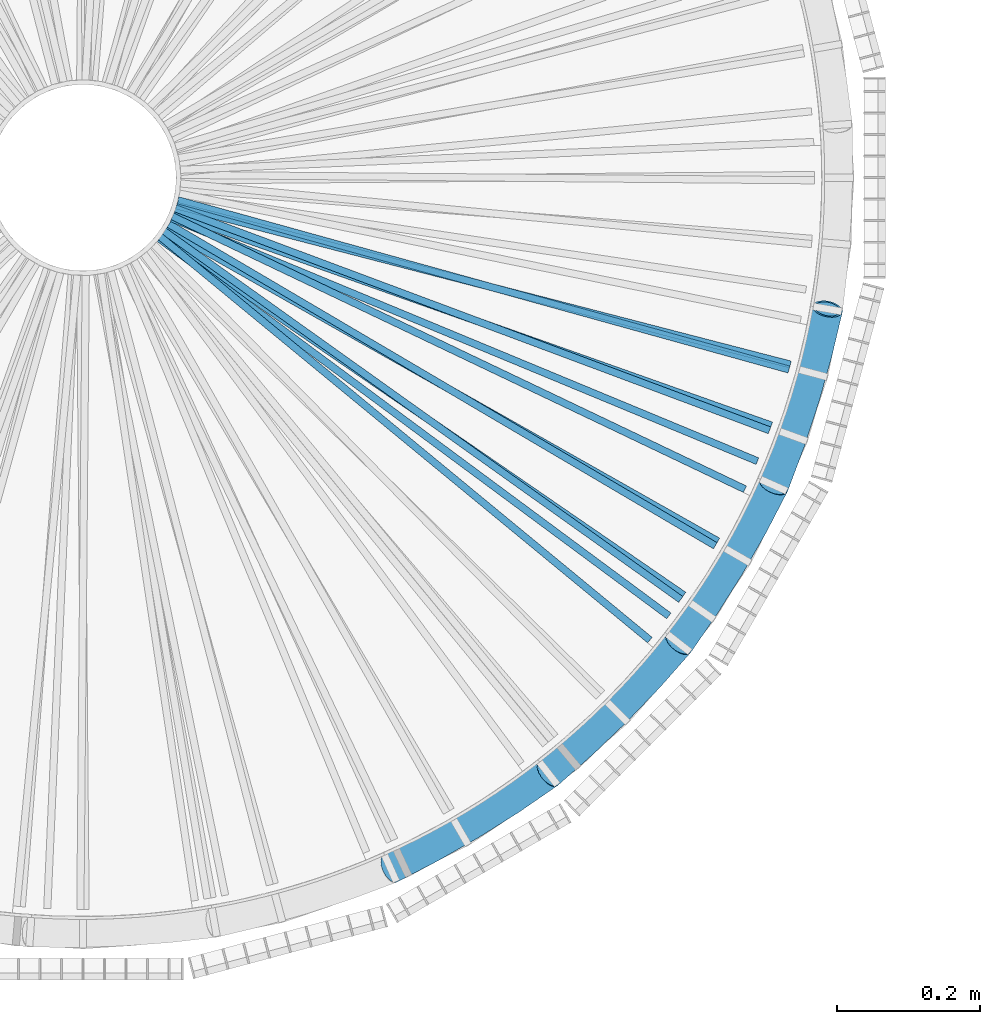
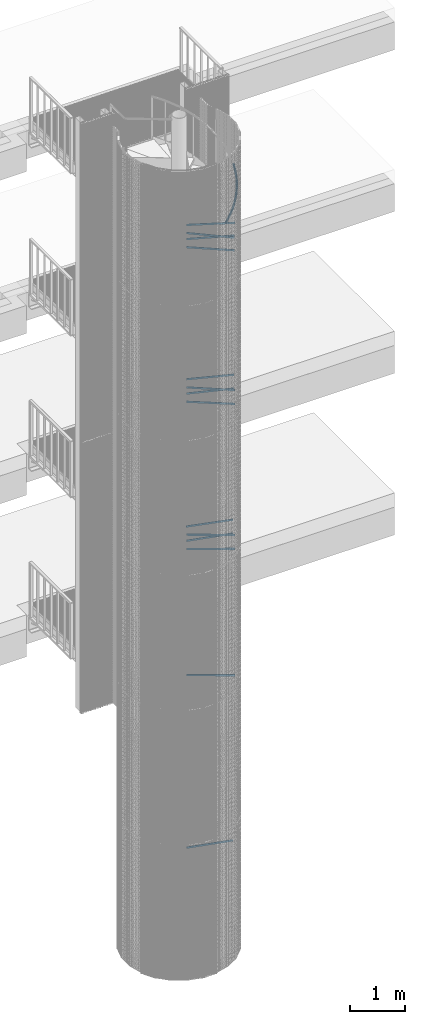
# One storey, part 271 of 1183: 14 beams, 4 members, 8 elements without a shape of their own.
"""IFC2X3 building model written with IfcOpenShell, lengths in millimetres."""

import ifcopenshell
import ifcopenshell.guid

model = None  # the IFC model being written
_history = None  # IfcOwnerHistory: only IFC2X3 demands one
_inside = {}  # id of a spatial element -> (the spatial element, [elements in it])
_under = {}  # id of a project, library or spatial element -> (it, [spatial elements below it])
_declared = {}  # id of a project -> (the project, [libraries it declares])
_typed = {}  # id of a type object -> (the type object, [elements of that type])
_made_of = {}  # id of a material, layer set ... -> (it, [elements and type objects made of it])


def new_model(schema):
    """Start an empty IFC model of exactly this schema.

    Asked for "IFC4X3", IfcOpenShell would pick the latest addendum, in which some entities
    have other attributes; the version numbers below select the first issue.
    IFC2X3 requires an IfcOwnerHistory on every rooted entity: one is made here for all.
    """
    global model, _history
    if schema == "IFC4X3":
        model = ifcopenshell.file(schema_version=(4, 3, 0, 0))
    else:
        model = ifcopenshell.file(schema=schema)
    _inside.clear()
    _under.clear()
    _declared.clear()
    _typed.clear()
    _made_of.clear()
    _history = None
    if model.schema == "IFC2X3":
        org = make("IfcOrganization", Name="unknown")
        user = make(
            "IfcPersonAndOrganization",
            ThePerson=make("IfcPerson", FamilyName="unknown"),
            TheOrganization=org,
        )
        app = make(
            "IfcApplication",
            ApplicationDeveloper=org,
            Version="unknown",
            ApplicationFullName="unknown",
            ApplicationIdentifier="unknown",
        )
        _history = make(
            "IfcOwnerHistory",
            OwningUser=user,
            OwningApplication=app,
            ChangeAction="ADDED",
            CreationDate=0,
        )
    return model


def make(cls, **values):
    """One entity of the class cls with the attributes given. An attribute that is None is left unset."""
    return model.create_entity(
        cls, **{name: value for name, value in values.items() if value is not None}
    )


def entity(cls, *values):
    """Any entity or typed value of the class cls, its attributes in the order of the schema. None: left unset."""
    e = model.create_entity(cls)
    for i, value in enumerate(values):
        if value is not None:
            e[i] = value
    return e


def rooted(cls, **values):
    """An entity with a GlobalId (a new one), such as an element, a storey or a relation."""
    return make(cls, GlobalId=ifcopenshell.guid.new(), OwnerHistory=_history, **values)


def si_unit(unit_type, name, prefix=None):
    """IfcSIUnit, for example si_unit("LENGTHUNIT", "METRE", prefix="MILLI")."""
    return make("IfcSIUnit", UnitType=unit_type, Prefix=prefix, Name=name)


def assignment(units):
    """IfcUnitAssignment: the units of a project."""
    return None if units is None else make("IfcUnitAssignment", Units=units)


def point(xyz):
    """IfcCartesianPoint."""
    return None if xyz is None else make("IfcCartesianPoint", Coordinates=xyz)


def direction(xyz):
    """IfcDirection."""
    return None if xyz is None else make("IfcDirection", DirectionRatios=xyz)


def frame(location, z_axis=None, x_axis=None):
    """IfcAxis2Placement3D, a coordinate frame: its origin and axes. An axis left out is left unset."""
    return make(
        "IfcAxis2Placement3D",
        Location=point(location),
        Axis=direction(z_axis),
        RefDirection=direction(x_axis),
    )


def frame_2d(location, x_axis=None):
    """IfcAxis2Placement2D, a coordinate frame in the plane: its origin and x axis."""
    return make(
        "IfcAxis2Placement2D", Location=point(location), RefDirection=direction(x_axis)
    )


def origin_with_axes():
    """The frame at (0, 0, 0) with the z axis (0, 0, 1) and the x axis (1, 0, 0) written out."""
    return frame((0.0, 0.0, 0.0), z_axis=(0.0, 0.0, 1.0), x_axis=(1.0, 0.0, 0.0))


def origin_2d_with_axis():
    """The frame at (0, 0) in the plane with the x axis (1, 0) written out."""
    return frame_2d((0.0, 0.0), x_axis=(1.0, 0.0))


def place(relative_to, where):
    """IfcLocalPlacement: puts the frame where relative to a parent placement (None: the world)."""
    return make(
        "IfcLocalPlacement", PlacementRelTo=relative_to, RelativePlacement=where
    )


def context(
    kind, dimensions, precision=None, world=None, true_north=None, identifier=None
):
    """IfcGeometricRepresentationContext, for example the 3D "Model" context."""
    return make(
        "IfcGeometricRepresentationContext",
        ContextIdentifier=identifier,
        ContextType=kind,
        CoordinateSpaceDimension=dimensions,
        Precision=precision,
        WorldCoordinateSystem=world,
        TrueNorth=true_north,
    )


def subcontext(parent, identifier, kind, view, scale=None):
    """IfcGeometricRepresentationSubContext, for example "Body" below "Model"."""
    return make(
        "IfcGeometricRepresentationSubContext",
        ContextIdentifier=identifier,
        ContextType=kind,
        ParentContext=parent,
        TargetScale=scale,
        TargetView=view,
    )


def project(units=None, contexts=None):
    """IfcProject with its units and contexts."""
    return rooted(
        "IfcProject",
        Name="project",
        RepresentationContexts=contexts,
        UnitsInContext=assignment(units),
    )


def spatial(cls, under=None, at=None, **own):
    """A site, building, storey or space (cls), placed at a placement, below another one or the project."""
    s = rooted(cls, ObjectPlacement=at, **own)
    if under is not None:
        _under.setdefault(under.id(), (under, []))[1].append(s)
    return s


def polyline(points):
    """IfcPolyline through the points."""
    return make("IfcPolyline", Points=[point(p) for p in points])


def profile(cls, at=None, kind="AREA", **sizes):
    """A parametric profile (cls). Its sizes go by their IFC names, for example OverallWidth=200.0."""
    return make(cls, ProfileType=kind, Position=at, **sizes)


def rectangle(**sizes):
    """IfcRectangleProfileDef."""
    return profile("IfcRectangleProfileDef", **sizes)


def outline(outer, holes=None, kind="AREA"):
    """IfcArbitraryClosedProfileDef: a profile drawn as a closed curve; with holes, ...WithVoids."""
    if holes is None:
        return make("IfcArbitraryClosedProfileDef", ProfileType=kind, OuterCurve=outer)
    return make(
        "IfcArbitraryProfileDefWithVoids",
        ProfileType=kind,
        OuterCurve=outer,
        InnerCurves=holes,
    )


def extrude(swept, where, along, depth):
    """IfcExtrudedAreaSolid: the profile swept, set in the frame where, extruded along a direction by depth."""
    return make(
        "IfcExtrudedAreaSolid",
        SweptArea=swept,
        Position=where,
        ExtrudedDirection=direction(along),
        Depth=depth,
    )


def boolean(op, a, b):
    """IfcBooleanResult of two solids."""
    return make("IfcBooleanResult", Operator=op, FirstOperand=a, SecondOperand=b)


def shape(context_of_items, identifier, shape_type, items):
    """IfcShapeRepresentation: the items that make up one representation, for example the "Body"."""
    return make(
        "IfcShapeRepresentation",
        ContextOfItems=context_of_items,
        RepresentationIdentifier=identifier,
        RepresentationType=shape_type,
        Items=items,
    )


def material(Name=None, Category=None):
    """IfcMaterial."""
    return make("IfcMaterial", Name=Name, Category=Category)


def made_of(thing, what):
    """Note that an element or type object is made of a material, layer set ...; save() writes the relation."""
    if what is not None:
        _made_of.setdefault(what.id(), (what, []))[1].append(thing)
    return thing


def type_object(cls, material=None, **own):
    """A type object (cls), such as IfcWallType, which elements share."""
    return made_of(rooted(cls, **own), material)


def element(
    cls,
    number,
    at=None,
    inside=None,
    cuts=None,
    type_object=None,
    material=None,
    context=None,
    identifier="Body",
    shape_type=None,
    held_by="IfcProductDefinitionShape",
    body=None,
    shapes=None,
    **own,
):
    """One element of the class cls, such as IfcWall. Its Tag is "e" and its number.

    at: its placement. inside: the storey or other place that contains it. cuts: it is an
    opening in that element (IfcRelVoidsElement). A single representation is given by context,
    identifier, shape_type and body (its items); several are given by shapes. held_by: the class
    of the entity that holds the representations. save() writes the other relations.
    """
    e = rooted(cls, Tag="e%d" % number, ObjectPlacement=at, **own)
    if body is not None:
        shapes = [shape(context, identifier, shape_type, body)]
    if shapes is not None:
        e.Representation = make(held_by, Representations=shapes)
    if inside is not None:
        _inside.setdefault(inside.id(), (inside, []))[1].append(e)
    if cuts is not None:
        rooted(
            "IfcRelVoidsElement", RelatingBuildingElement=cuts, RelatedOpeningElement=e
        )
    if type_object is not None:
        _typed.setdefault(type_object.id(), (type_object, []))[1].append(e)
    return made_of(e, material)


def aggregate(whole, parts):
    """IfcRelAggregates: a whole, such as a stair, and the parts it consists of."""
    return rooted("IfcRelAggregates", RelatingObject=whole, RelatedObjects=parts)


def save(model, path):
    """Write the relations noted so far, then the file.

    IfcRelAggregates (storeys below a building ...), IfcRelContainedInSpatialStructure (elements
    in a storey), IfcRelDefinesByType, IfcRelAssociatesMaterial and IfcRelDeclares: one each for
    every whole, place, type object, material and project.
    """
    for whole, parts in _under.values():
        aggregate(whole, parts)
    for where, things in _inside.values():
        rooted(
            "IfcRelContainedInSpatialStructure",
            RelatedElements=things,
            RelatingStructure=where,
        )
    for kind, things in _typed.values():
        rooted("IfcRelDefinesByType", RelatedObjects=things, RelatingType=kind)
    for what, things in _made_of.values():
        rooted("IfcRelAssociatesMaterial", RelatedObjects=things, RelatingMaterial=what)
    for by, libraries in _declared.values():
        rooted("IfcRelDeclares", RelatingContext=by, RelatedDefinitions=libraries)
    model.write(path)


model = new_model("IFC2X3")

# Units and contexts
model_context = context("Model", 3, precision=1e-05, world=origin_with_axes())
body_context = subcontext(model_context, "Body", "Model", "MODEL_VIEW")
ifc_project = project(units=[si_unit("LENGTHUNIT", "METRE", prefix="MILLI"), si_unit("AREAUNIT", "SQUARE_METRE"), si_unit("VOLUMEUNIT", "CUBIC_METRE"), si_unit("MASSUNIT", "GRAM", prefix="KILO"), si_unit("TIMEUNIT", "SECOND"), si_unit("PLANEANGLEUNIT", "RADIAN"), si_unit("SOLIDANGLEUNIT", "STERADIAN"), si_unit("THERMODYNAMICTEMPERATUREUNIT", "DEGREE_CELSIUS"), si_unit("LUMINOUSINTENSITYUNIT", "LUMEN")], contexts=[model_context])

# Site, building, storey
site_placement = place(None, origin_with_axes())
site = spatial("IfcSite", under=ifc_project, at=site_placement, Name="Undefined", CompositionType="ELEMENT")
building_placement = place(site_placement, origin_with_axes())
building = spatial("IfcBuilding", under=site, at=building_placement, Name="Undefined", CompositionType="ELEMENT")
storey_placement = place(building_placement, origin_with_axes())
storey = spatial("IfcBuildingStorey", under=building, at=storey_placement, Name="Undefined", CompositionType="ELEMENT", Elevation=0.0)

# Assembly, beam
assembly_1_placement = place(storey_placement, origin_with_axes())
assembly_1 = element("IfcElementAssembly", 1, at=assembly_1_placement, inside=storey, Name="POTEAU", AssemblyPlace="NOTDEFINED", PredefinedType="NOTDEFINED")
ifc_material = material(Name="STEEL/S235JR")
beam_type = type_object("IfcBeamType", Name="PL10*40", PredefinedType="NOTDEFINED")
beam_1_placement = place(assembly_1_placement, frame((74.8463745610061, -38.2598530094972, 6002.28000000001), z_axis=(0.0, 0.0, 1.0), x_axis=(0.861759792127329, -0.507316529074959, 0.0)))
beam_1 = element("IfcBeam", 2, at=beam_1_placement, type_object=beam_type, material=ifc_material, Name="RAIDISSEUR", context=body_context, shape_type="CSG", body=[
    boolean("DIFFERENCE", extrude(rectangle(XDim=10.0, YDim=40.0, at=origin_2d_with_axis()), frame((935.982964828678, -2.59787459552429e-14, -3.63797880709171e-12), z_axis=(-1.0, 0.0, 0.0), x_axis=(0.0, -1.0, 0.0)), (0.0, 0.0, 1.0), 935.98), extrude(outline(polyline([(0.0, 0.0), (30.5663019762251, -4.91127138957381e-11), (60.366242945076, 6.80164206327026), (87.9055294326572, 20.0638634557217), (111.803226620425, 39.1216410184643), (130.861004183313, 63.0193382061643), (144.123225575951, 90.5586246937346), (150.9248676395, 120.358565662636), (150.924867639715, 150.924867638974), (144.123225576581, 180.724808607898), (130.86100418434, 208.264095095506), (111.803226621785, 232.161792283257), (87.9055294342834, 251.219569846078), (60.3662429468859, 264.481791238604), (30.5663019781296, 271.283433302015), (1.90266291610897e-09, 271.28343330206), (-29.7999409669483, 264.481791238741), (-57.3392274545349, 251.219569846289), (-81.2369246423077, 232.161792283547), (-100.294702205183, 208.26409509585), (-113.556923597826, 180.724808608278), (-120.35856566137, 150.92486763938), (-120.358565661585, 120.358565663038), (-113.556923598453, 90.5586246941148), (-100.294702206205, 63.0193382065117), (-81.2369246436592, 39.1216410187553), (-57.3392274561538, 20.0638634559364), (-29.7999409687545, 6.80164206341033), (0.0, 0.0)])), frame((-203.22952031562, -71.2945797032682, -22.5), z_axis=(0.0, 0.0, 1.0), x_axis=(0.580493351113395, -0.814264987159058, 0.0)), (0.0, 0.0, 1.0), 45.0)),
])

# Assembly, beams
assembly_2_placement = place(storey_placement, origin_with_axes())
assembly_2 = element("IfcElementAssembly", 3, at=assembly_2_placement, inside=storey, Name="POTEAU", AssemblyPlace="NOTDEFINED", PredefinedType="NOTDEFINED")
beam_2_placement = place(assembly_2_placement, frame((67.9397318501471, -49.4973632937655, 15857.28), z_axis=(0.0, 0.0, 1.0), x_axis=(0.771788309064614, -0.635879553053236, 0.0)))
beam_2 = element("IfcBeam", 4, at=beam_2_placement, type_object=beam_type, material=ifc_material, Name="RAIDISSEUR", context=body_context, shape_type="CSG", body=[
    boolean("DIFFERENCE", extrude(rectangle(XDim=10.0, YDim=40.0, at=origin_2d_with_axis()), frame((935.982964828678, -2.59787459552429e-14, -3.63797880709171e-12), z_axis=(-1.0, 0.0, 0.0), x_axis=(0.0, -1.0, 0.0)), (0.0, 0.0, 1.0), 935.98), extrude(outline(polyline([(0.0, 0.0), (30.5663019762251, -4.91127138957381e-11), (60.366242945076, 6.80164206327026), (87.9055294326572, 20.0638634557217), (111.803226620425, 39.1216410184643), (130.861004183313, 63.0193382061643), (144.123225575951, 90.5586246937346), (150.9248676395, 120.358565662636), (150.924867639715, 150.924867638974), (144.123225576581, 180.724808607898), (130.86100418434, 208.264095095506), (111.803226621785, 232.161792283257), (87.9055294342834, 251.219569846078), (60.3662429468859, 264.481791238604), (30.5663019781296, 271.283433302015), (1.90266291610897e-09, 271.28343330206), (-29.7999409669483, 264.481791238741), (-57.3392274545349, 251.219569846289), (-81.2369246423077, 232.161792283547), (-100.294702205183, 208.26409509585), (-113.556923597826, 180.724808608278), (-120.35856566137, 150.92486763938), (-120.358565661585, 120.358565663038), (-113.556923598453, 90.5586246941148), (-100.294702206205, 63.0193382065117), (-81.2369246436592, 39.1216410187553), (-57.3392274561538, 20.0638634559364), (-29.7999409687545, 6.80164206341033), (0.0, 0.0)])), frame((-191.38973513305, -89.1441545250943, -22.5000000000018), z_axis=(0.0, 0.0, 1.0), x_axis=(0.700725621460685, -0.713430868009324, 0.0)), (0.0, 0.0, 1.0), 45.0)),
])
beam_3_placement = place(assembly_2_placement, frame((77.896127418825, -31.5909713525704, 16013.8), z_axis=(0.0, 0.0, 1.0), x_axis=(0.902696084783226, -0.430278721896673, 0.0)))
beam_3 = element("IfcBeam", 5, at=beam_3_placement, type_object=beam_type, material=ifc_material, Name="RAIDISSEUR", context=body_context, shape_type="CSG", body=[
    boolean("DIFFERENCE", extrude(rectangle(XDim=10.0, YDim=40.0, at=origin_2d_with_axis()), frame((935.982964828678, -2.59787459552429e-14, -3.63797880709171e-12), z_axis=(-1.0, 0.0, 0.0), x_axis=(0.0, -1.0, 0.0)), (0.0, 0.0, 1.0), 935.98), extrude(outline(polyline([(0.0, 0.0), (30.5663019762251, -4.91127138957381e-11), (60.366242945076, 6.80164206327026), (87.9055294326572, 20.0638634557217), (111.803226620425, 39.1216410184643), (130.861004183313, 63.0193382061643), (144.123225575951, 90.5586246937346), (150.9248676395, 120.358565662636), (150.924867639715, 150.924867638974), (144.123225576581, 180.724808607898), (130.86100418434, 208.264095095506), (111.803226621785, 232.161792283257), (87.9055294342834, 251.219569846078), (60.3662429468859, 264.481791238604), (30.5663019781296, 271.283433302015), (1.90266291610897e-09, 271.28343330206), (-29.7999409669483, 264.481791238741), (-57.3392274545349, 251.219569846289), (-81.2369246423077, 232.161792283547), (-100.294702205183, 208.26409509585), (-113.556923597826, 180.724808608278), (-120.35856566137, 150.92486763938), (-120.358565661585, 120.358565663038), (-113.556923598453, 90.5586246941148), (-100.294702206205, 63.0193382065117), (-81.2369246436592, 39.1216410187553), (-57.3392274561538, 20.0638634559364), (-29.7999409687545, 6.80164206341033), (0.0, 0.0)])), frame((-208.553424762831, -60.6428796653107, -22.5), z_axis=(0.0, 0.0, 1.0), x_axis=(0.507316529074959, -0.861759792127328, 0.0)), (0.0, 0.0, 1.0), 45.0)),
])
beam_4_placement = place(assembly_2_placement, frame((64.4631887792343, -53.9471355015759, 15544.24), z_axis=(0.0, 0.0, 1.0), x_axis=(0.80370370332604, -0.595029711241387, 0.0)))
beam_4 = element("IfcBeam", 6, at=beam_4_placement, type_object=beam_type, material=ifc_material, Name="RAIDISSEUR", context=body_context, shape_type="CSG", body=[
    boolean("DIFFERENCE", extrude(rectangle(XDim=10.0, YDim=40.0, at=origin_2d_with_axis()), frame((935.982964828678, -2.59787459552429e-14, -3.63797880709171e-12), z_axis=(-1.0, 0.0, 0.0), x_axis=(0.0, -1.0, 0.0)), (0.0, 0.0, 1.0), 935.98), extrude(outline(polyline([(0.0, 0.0), (30.5663019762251, -4.91127138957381e-11), (60.366242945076, 6.80164206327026), (87.9055294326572, 20.0638634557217), (111.803226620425, 39.1216410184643), (130.861004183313, 63.0193382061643), (144.123225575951, 90.5586246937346), (150.9248676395, 120.358565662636), (150.924867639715, 150.924867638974), (144.123225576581, 180.724808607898), (130.86100418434, 208.264095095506), (111.803226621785, 232.161792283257), (87.9055294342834, 251.219569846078), (60.3662429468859, 264.481791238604), (30.5663019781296, 271.283433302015), (1.90266291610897e-09, 271.28343330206), (-29.7999409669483, 264.481791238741), (-57.3392274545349, 251.219569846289), (-81.2369246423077, 232.161792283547), (-100.294702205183, 208.26409509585), (-113.556923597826, 180.724808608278), (-120.35856566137, 150.92486763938), (-120.358565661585, 120.358565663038), (-113.556923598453, 90.5586246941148), (-100.294702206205, 63.0193382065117), (-81.2369246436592, 39.1216410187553), (-57.3392274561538, 20.0638634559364), (-29.7999409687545, 6.80164206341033), (0.0, 0.0)])), frame((-195.605818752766, -73.4612749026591, -22.5), z_axis=(0.0, 0.0, 1.0), x_axis=(0.662812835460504, -0.748785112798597, 0.0)), (0.0, 0.0, 1.0), 45.0)),
])
beam_5_placement = place(assembly_2_placement, frame((75.5993498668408, -36.7496182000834, 15700.76), z_axis=(0.0, 0.0, 1.0), x_axis=(0.923780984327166, -0.382921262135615, 0.0)))
beam_5 = element("IfcBeam", 7, at=beam_5_placement, type_object=beam_type, material=ifc_material, Name="RAIDISSEUR", context=body_context, shape_type="CSG", body=[
    boolean("DIFFERENCE", extrude(rectangle(XDim=10.0, YDim=40.0, at=origin_2d_with_axis()), frame((935.982964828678, -2.59787459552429e-14, -3.63797880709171e-12), z_axis=(-1.0, 0.0, 0.0), x_axis=(0.0, -1.0, 0.0)), (0.0, 0.0, 1.0), 935.98), extrude(outline(polyline([(0.0, 0.0), (30.5663019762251, -4.91127138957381e-11), (60.366242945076, 6.80164206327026), (87.9055294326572, 20.0638634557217), (111.803226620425, 39.1216410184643), (130.861004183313, 63.0193382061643), (144.123225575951, 90.5586246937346), (150.9248676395, 120.358565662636), (150.924867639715, 150.924867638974), (144.123225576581, 180.724808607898), (130.86100418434, 208.264095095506), (111.803226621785, 232.161792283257), (87.9055294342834, 251.219569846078), (60.3662429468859, 264.481791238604), (30.5663019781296, 271.283433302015), (1.90266291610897e-09, 271.28343330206), (-29.7999409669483, 264.481791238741), (-57.3392274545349, 251.219569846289), (-81.2369246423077, 232.161792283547), (-100.294702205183, 208.26409509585), (-113.556923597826, 180.724808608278), (-120.35856566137, 150.92486763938), (-120.358565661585, 120.358565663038), (-113.556923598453, 90.5586246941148), (-100.294702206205, 63.0193382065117), (-81.2369246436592, 39.1216410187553), (-57.3392274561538, 20.0638634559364), (-29.7999409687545, 6.80164206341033), (0.0, 0.0)])), frame((-211.269459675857, -44.1088428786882, -22.4999999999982), z_axis=(0.0, 0.0, 1.0), x_axis=(0.461976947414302, -0.886891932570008, 0.0)), (0.0, 0.0, 1.0), 45.0)),
])
aggregate(assembly_2, [beam_2, beam_3, beam_4, beam_5])

assembly_3_placement = place(storey_placement, origin_with_axes())
assembly_3 = element("IfcElementAssembly", 8, at=assembly_3_placement, inside=storey, Name="POTEAU", AssemblyPlace="NOTDEFINED", PredefinedType="NOTDEFINED")
beam_6_placement = place(assembly_3_placement, frame((66.3066474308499, -51.6645395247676, 12100.76), z_axis=(0.0, 0.0, 1.0), x_axis=(0.823980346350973, -0.56661838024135, 0.0)))
beam_6 = element("IfcBeam", 9, at=beam_6_placement, type_object=beam_type, material=ifc_material, Name="RAIDISSEUR", context=body_context, shape_type="CSG", body=[
    boolean("DIFFERENCE", extrude(rectangle(XDim=10.0, YDim=40.0, at=origin_2d_with_axis()), frame((935.982964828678, -2.59787459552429e-14, -3.63797880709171e-12), z_axis=(-1.0, 0.0, 0.0), x_axis=(0.0, -1.0, 0.0)), (0.0, 0.0, 1.0), 935.98), extrude(outline(polyline([(0.0, 0.0), (30.5663019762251, -4.91127138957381e-11), (60.366242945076, 6.80164206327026), (87.9055294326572, 20.0638634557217), (111.803226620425, 39.1216410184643), (130.861004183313, 63.0193382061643), (144.123225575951, 90.5586246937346), (150.9248676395, 120.358565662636), (150.924867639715, 150.924867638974), (144.123225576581, 180.724808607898), (130.86100418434, 208.264095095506), (111.803226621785, 232.161792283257), (87.9055294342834, 251.219569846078), (60.3662429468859, 264.481791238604), (30.5663019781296, 271.283433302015), (1.90266291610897e-09, 271.28343330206), (-29.7999409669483, 264.481791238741), (-57.3392274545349, 251.219569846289), (-81.2369246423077, 232.161792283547), (-100.294702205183, 208.26409509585), (-113.556923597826, 180.724808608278), (-120.35856566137, 150.92486763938), (-120.358565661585, 120.358565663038), (-113.556923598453, 90.5586246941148), (-100.294702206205, 63.0193382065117), (-81.2369246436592, 39.1216410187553), (-57.3392274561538, 20.0638634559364), (-29.7999409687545, 6.80164206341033), (0.0, 0.0)])), frame((-198.276035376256, -69.5153313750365, -22.5000000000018), z_axis=(0.0, 0.0, 1.0), x_axis=(0.636276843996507, -0.771460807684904, 0.0)), (0.0, 0.0, 1.0), 45.0)),
])
beam_7_placement = place(assembly_3_placement, frame((71.2269955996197, -44.6375540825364, 12413.8), z_axis=(0.0, 0.0, 1.0), x_axis=(0.814264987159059, -0.580493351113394, 0.0)))
beam_7 = element("IfcBeam", 10, at=beam_7_placement, type_object=beam_type, material=ifc_material, Name="RAIDISSEUR", context=body_context, shape_type="CSG", body=[
    boolean("DIFFERENCE", extrude(rectangle(XDim=10.0, YDim=40.0, at=origin_2d_with_axis()), frame((935.982964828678, -2.59787459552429e-14, -3.63797880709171e-12), z_axis=(-1.0, 0.0, 0.0), x_axis=(0.0, -1.0, 0.0)), (0.0, 0.0, 1.0), 935.98), extrude(outline(polyline([(0.0, 0.0), (30.5663019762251, -4.91127138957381e-11), (60.366242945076, 6.80164206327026), (87.9055294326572, 20.0638634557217), (111.803226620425, 39.1216410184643), (130.861004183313, 63.0193382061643), (144.123225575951, 90.5586246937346), (150.9248676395, 120.358565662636), (150.924867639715, 150.924867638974), (144.123225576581, 180.724808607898), (130.86100418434, 208.264095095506), (111.803226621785, 232.161792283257), (87.9055294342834, 251.219569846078), (60.3662429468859, 264.481791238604), (30.5663019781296, 271.283433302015), (1.90266291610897e-09, 271.28343330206), (-29.7999409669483, 264.481791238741), (-57.3392274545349, 251.219569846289), (-81.2369246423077, 232.161792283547), (-100.294702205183, 208.26409509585), (-113.556923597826, 180.724808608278), (-120.35856566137, 150.92486763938), (-120.358565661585, 120.358565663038), (-113.556923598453, 90.5586246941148), (-100.294702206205, 63.0193382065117), (-81.2369246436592, 39.1216410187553), (-57.3392274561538, 20.0638634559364), (-29.7999409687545, 6.80164206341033), (0.0, 0.0)])), frame((-196.997518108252, -81.4417379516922, -22.4999999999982), z_axis=(0.0, 0.0, 1.0), x_axis=(0.649252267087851, -0.760573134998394, 0.0)), (0.0, 0.0, 1.0), 45.0)),
])
beam_8_placement = place(assembly_3_placement, frame((80.3530437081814, -24.6816633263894, 12570.32), z_axis=(0.0, 0.0, 1.0), x_axis=(0.936762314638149, -0.349966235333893, 0.0)))
beam_8 = element("IfcBeam", 11, at=beam_8_placement, type_object=beam_type, material=ifc_material, Name="RAIDISSEUR", context=body_context, shape_type="CSG", body=[
    boolean("DIFFERENCE", extrude(rectangle(XDim=10.0, YDim=40.0, at=origin_2d_with_axis()), frame((935.982964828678, -2.59787459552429e-14, -3.63797880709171e-12), z_axis=(-1.0, 0.0, 0.0), x_axis=(0.0, -1.0, 0.0)), (0.0, 0.0, 1.0), 935.98), extrude(outline(polyline([(0.0, 0.0), (30.5663019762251, -4.91127138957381e-11), (60.366242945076, 6.80164206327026), (87.9055294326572, 20.0638634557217), (111.803226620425, 39.1216410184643), (130.861004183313, 63.0193382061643), (144.123225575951, 90.5586246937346), (150.9248676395, 120.358565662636), (150.924867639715, 150.924867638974), (144.123225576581, 180.724808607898), (130.86100418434, 208.264095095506), (111.803226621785, 232.161792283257), (87.9055294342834, 251.219569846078), (60.3662429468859, 264.481791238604), (30.5663019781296, 271.283433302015), (1.90266291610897e-09, 271.28343330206), (-29.7999409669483, 264.481791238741), (-57.3392274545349, 251.219569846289), (-81.2369246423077, 232.161792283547), (-100.294702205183, 208.26409509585), (-113.556923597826, 180.724808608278), (-120.35856566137, 150.92486763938), (-120.358565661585, 120.358565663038), (-113.556923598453, 90.5586246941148), (-100.294702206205, 63.0193382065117), (-81.2369246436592, 39.1216410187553), (-57.3392274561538, 20.0638634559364), (-29.7999409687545, 6.80164206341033), (0.0, 0.0)])), frame((-212.928713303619, -49.567703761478, -22.5), z_axis=(0.0, 0.0, 1.0), x_axis=(0.430278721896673, -0.902696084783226, 0.0)), (0.0, 0.0, 1.0), 45.0)),
])
beam_9_placement = place(assembly_3_placement, frame((77.4190699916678, -32.7426898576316, 12257.28), z_axis=(0.0, 0.0, 1.0), x_axis=(0.942555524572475, -0.334049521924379, 0.0)))
beam_9 = element("IfcBeam", 12, at=beam_9_placement, type_object=beam_type, material=ifc_material, Name="RAIDISSEUR", context=body_context, shape_type="CSG", body=[
    boolean("DIFFERENCE", extrude(rectangle(XDim=10.0, YDim=40.0, at=origin_2d_with_axis()), frame((935.982964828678, -2.59787459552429e-14, -3.63797880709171e-12), z_axis=(-1.0, 0.0, 0.0), x_axis=(0.0, -1.0, 0.0)), (0.0, 0.0, 1.0), 935.98), extrude(outline(polyline([(0.0, 0.0), (30.5663019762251, -4.91127138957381e-11), (60.366242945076, 6.80164206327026), (87.9055294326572, 20.0638634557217), (111.803226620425, 39.1216410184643), (130.861004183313, 63.0193382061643), (144.123225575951, 90.5586246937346), (150.9248676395, 120.358565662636), (150.924867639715, 150.924867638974), (144.123225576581, 180.724808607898), (130.86100418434, 208.264095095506), (111.803226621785, 232.161792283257), (87.9055294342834, 251.219569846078), (60.3662429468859, 264.481791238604), (30.5663019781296, 271.283433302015), (1.90266291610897e-09, 271.28343330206), (-29.7999409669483, 264.481791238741), (-57.3392274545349, 251.219569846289), (-81.2369246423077, 232.161792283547), (-100.294702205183, 208.26409509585), (-113.556923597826, 180.724808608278), (-120.35856566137, 150.92486763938), (-120.358565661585, 120.358565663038), (-113.556923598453, 90.5586246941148), (-100.294702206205, 63.0193382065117), (-81.2369246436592, 39.1216410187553), (-57.3392274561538, 20.0638634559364), (-29.7999409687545, 6.80164206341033), (0.0, 0.0)])), frame((-213.665075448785, -37.3760331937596, -22.5000000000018), z_axis=(0.0, 0.0, 1.0), x_axis=(0.414927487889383, -0.909854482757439, 0.0)), (0.0, 0.0, 1.0), 45.0)),
])
aggregate(assembly_3, [beam_6, beam_7, beam_8, beam_9])

assembly_4_placement = place(storey_placement, origin_with_axes())
assembly_4 = element("IfcElementAssembly", 13, at=assembly_4_placement, inside=storey, Name="POTEAU", AssemblyPlace="NOTDEFINED", PredefinedType="NOTDEFINED")
beam_10_placement = place(assembly_4_placement, frame((79.978180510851, -25.8705774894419, 8970.32000000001), z_axis=(0.0, 0.0, 1.0), x_axis=(0.968083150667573, -0.250629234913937, 0.0)))
beam_10 = element("IfcBeam", 14, at=beam_10_placement, type_object=beam_type, material=ifc_material, Name="RAIDISSEUR", context=body_context, shape_type="CSG", body=[
    boolean("DIFFERENCE", extrude(rectangle(XDim=10.0, YDim=40.0, at=origin_2d_with_axis()), frame((935.982964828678, -2.59787459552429e-14, -3.63797880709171e-12), z_axis=(-1.0, 0.0, 0.0), x_axis=(0.0, -1.0, 0.0)), (0.0, 0.0, 1.0), 935.98), extrude(outline(polyline([(0.0, 0.0), (30.5663019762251, -4.91127138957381e-11), (60.366242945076, 6.80164206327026), (87.9055294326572, 20.0638634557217), (111.803226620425, 39.1216410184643), (130.861004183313, 63.0193382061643), (144.123225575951, 90.5586246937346), (150.9248676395, 120.358565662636), (150.924867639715, 150.924867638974), (144.123225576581, 180.724808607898), (130.86100418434, 208.264095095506), (111.803226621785, 232.161792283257), (87.9055294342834, 251.219569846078), (60.3662429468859, 264.481791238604), (30.5663019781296, 271.283433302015), (1.90266291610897e-09, 271.28343330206), (-29.7999409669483, 264.481791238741), (-57.3392274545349, 251.219569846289), (-81.2369246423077, 232.161792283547), (-100.294702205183, 208.26409509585), (-113.556923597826, 180.724808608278), (-120.35856566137, 150.92486763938), (-120.358565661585, 120.358565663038), (-113.556923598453, 90.5586246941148), (-100.294702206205, 63.0193382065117), (-81.2369246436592, 39.1216410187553), (-57.3392274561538, 20.0638634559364), (-29.7999409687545, 6.80164206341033), (0.0, 0.0)])), frame((-216.864630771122, -25.9058318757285, -22.5), z_axis=(0.0, 0.0, 1.0), x_axis=(0.334049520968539, -0.942555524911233, 0.0)), (0.0, 0.0, 1.0), 45.0)),
])
beam_11_placement = place(assembly_4_placement, frame((74.8463745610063, -38.2598530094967, 9126.84000000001), z_axis=(0.0, 0.0, 1.0), x_axis=(0.861759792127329, -0.507316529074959, 0.0)))
beam_11 = element("IfcBeam", 15, at=beam_11_placement, type_object=beam_type, material=ifc_material, Name="RAIDISSEUR", context=body_context, shape_type="CSG", body=[
    boolean("DIFFERENCE", extrude(rectangle(XDim=10.0, YDim=40.0, at=origin_2d_with_axis()), frame((935.982964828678, -2.59787459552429e-14, -3.63797880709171e-12), z_axis=(-1.0, 0.0, 0.0), x_axis=(0.0, -1.0, 0.0)), (0.0, 0.0, 1.0), 935.98), extrude(outline(polyline([(0.0, 0.0), (30.5663019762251, -4.91127138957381e-11), (60.366242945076, 6.80164206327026), (87.9055294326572, 20.0638634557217), (111.803226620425, 39.1216410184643), (130.861004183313, 63.0193382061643), (144.123225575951, 90.5586246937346), (150.9248676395, 120.358565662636), (150.924867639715, 150.924867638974), (144.123225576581, 180.724808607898), (130.86100418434, 208.264095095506), (111.803226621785, 232.161792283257), (87.9055294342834, 251.219569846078), (60.3662429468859, 264.481791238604), (30.5663019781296, 271.283433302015), (1.90266291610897e-09, 271.28343330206), (-29.7999409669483, 264.481791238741), (-57.3392274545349, 251.219569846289), (-81.2369246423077, 232.161792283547), (-100.294702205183, 208.26409509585), (-113.556923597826, 180.724808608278), (-120.35856566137, 150.92486763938), (-120.358565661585, 120.358565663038), (-113.556923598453, 90.5586246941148), (-100.294702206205, 63.0193382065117), (-81.2369246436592, 39.1216410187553), (-57.3392274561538, 20.0638634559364), (-29.7999409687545, 6.80164206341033), (0.0, 0.0)])), frame((-203.22952031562, -71.2945797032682, -22.5), z_axis=(0.0, 0.0, 1.0), x_axis=(0.580493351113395, -0.814264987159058, 0.0)), (0.0, 0.0, 1.0), 45.0)),
])
beam_12_placement = place(assembly_4_placement, frame((70.5571919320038, -45.6889352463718, 8813.80000000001), z_axis=(0.0, 0.0, 1.0), x_axis=(0.870228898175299, -0.492647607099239, 0.0)))
beam_12 = element("IfcBeam", 16, at=beam_12_placement, type_object=beam_type, material=ifc_material, Name="RAIDISSEUR", context=body_context, shape_type="CSG", body=[
    boolean("DIFFERENCE", extrude(rectangle(XDim=10.0, YDim=40.0, at=origin_2d_with_axis()), frame((935.982964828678, -2.59787459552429e-14, -3.63797880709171e-12), z_axis=(-1.0, 0.0, 0.0), x_axis=(0.0, -1.0, 0.0)), (0.0, 0.0, 1.0), 935.98), extrude(outline(polyline([(0.0, 0.0), (30.5663019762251, -4.91127138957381e-11), (60.366242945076, 6.80164206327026), (87.9055294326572, 20.0638634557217), (111.803226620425, 39.1216410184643), (130.861004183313, 63.0193382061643), (144.123225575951, 90.5586246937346), (150.9248676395, 120.358565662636), (150.924867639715, 150.924867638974), (144.123225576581, 180.724808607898), (130.86100418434, 208.264095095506), (111.803226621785, 232.161792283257), (87.9055294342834, 251.219569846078), (60.3662429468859, 264.481791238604), (30.5663019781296, 271.283433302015), (1.90266291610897e-09, 271.28343330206), (-29.7999409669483, 264.481791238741), (-57.3392274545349, 251.219569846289), (-81.2369246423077, 232.161792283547), (-100.294702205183, 208.26409509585), (-113.556923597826, 180.724808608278), (-120.35856566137, 150.92486763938), (-120.358565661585, 120.358565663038), (-113.556923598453, 90.5586246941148), (-100.294702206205, 63.0193382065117), (-81.2369246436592, 39.1216410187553), (-57.3392274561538, 20.0638634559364), (-29.7999409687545, 6.80164206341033), (0.0, 0.0)])), frame((-204.335275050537, -59.264073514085, -22.5), z_axis=(0.0, 0.0, 1.0), x_axis=(0.566618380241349, -0.823980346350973, 0.0)), (0.0, 0.0, 1.0), 45.0)),
])
beam_13_placement = place(assembly_4_placement, frame((82.1984248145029, -17.584512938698, 9283.36000000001), z_axis=(0.0, 0.0, 1.0), x_axis=(0.963699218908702, -0.266990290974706, 0.0)))
beam_13 = element("IfcBeam", 17, at=beam_13_placement, type_object=beam_type, material=ifc_material, Name="RAIDISSEUR", context=body_context, shape_type="CSG", body=[
    boolean("DIFFERENCE", extrude(rectangle(XDim=10.0, YDim=40.0, at=origin_2d_with_axis()), frame((935.982964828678, -2.59787459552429e-14, -3.63797880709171e-12), z_axis=(-1.0, 0.0, 0.0), x_axis=(0.0, -1.0, 0.0)), (0.0, 0.0, 1.0), 935.98), extrude(outline(polyline([(0.0, 0.0), (30.5663019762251, -4.91127138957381e-11), (60.366242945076, 6.80164206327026), (87.9055294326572, 20.0638634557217), (111.803226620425, 39.1216410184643), (130.861004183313, 63.0193382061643), (144.123225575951, 90.5586246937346), (150.9248676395, 120.358565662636), (150.924867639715, 150.924867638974), (144.123225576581, 180.724808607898), (130.86100418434, 208.264095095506), (111.803226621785, 232.161792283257), (87.9055294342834, 251.219569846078), (60.3662429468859, 264.481791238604), (30.5663019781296, 271.283433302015), (1.90266291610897e-09, 271.28343330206), (-29.7999409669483, 264.481791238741), (-57.3392274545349, 251.219569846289), (-81.2369246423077, 232.161792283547), (-100.294702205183, 208.26409509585), (-113.556923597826, 180.724808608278), (-120.35856566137, 150.92486763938), (-120.358565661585, 120.358565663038), (-113.556923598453, 90.5586246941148), (-100.294702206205, 63.0193382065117), (-81.2369246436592, 39.1216410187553), (-57.3392274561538, 20.0638634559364), (-29.7999409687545, 6.80164206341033), (0.0, 0.0)])), frame((-216.322087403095, -38.1533405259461, -22.4999999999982), z_axis=(0.0, 0.0, 1.0), x_axis=(0.349966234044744, -0.936762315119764, 0.0)), (0.0, 0.0, 1.0), 45.0)),
])
aggregate(assembly_4, [beam_10, beam_11, beam_12, beam_13])

# Beam
beam_14_placement = place(assembly_1_placement, frame((79.9781805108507, -25.8705774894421, 2139.28), z_axis=(0.0, 0.0, 1.0), x_axis=(0.968083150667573, -0.250629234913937, 0.0)))
beam_14 = element("IfcBeam", 18, at=beam_14_placement, type_object=beam_type, material=ifc_material, Name="RAIDISSEUR", context=body_context, shape_type="CSG", body=[
    boolean("DIFFERENCE", extrude(rectangle(XDim=10.0, YDim=40.0, at=origin_2d_with_axis()), frame((935.982964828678, -2.59787459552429e-14, -3.63797880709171e-12), z_axis=(-1.0, 0.0, 0.0), x_axis=(0.0, -1.0, 0.0)), (0.0, 0.0, 1.0), 935.98), extrude(outline(polyline([(0.0, 0.0), (30.5663019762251, -4.91127138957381e-11), (60.366242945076, 6.80164206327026), (87.9055294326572, 20.0638634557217), (111.803226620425, 39.1216410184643), (130.861004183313, 63.0193382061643), (144.123225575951, 90.5586246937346), (150.9248676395, 120.358565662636), (150.924867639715, 150.924867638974), (144.123225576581, 180.724808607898), (130.86100418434, 208.264095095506), (111.803226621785, 232.161792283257), (87.9055294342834, 251.219569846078), (60.3662429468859, 264.481791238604), (30.5663019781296, 271.283433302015), (1.90266291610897e-09, 271.28343330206), (-29.7999409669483, 264.481791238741), (-57.3392274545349, 251.219569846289), (-81.2369246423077, 232.161792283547), (-100.294702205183, 208.26409509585), (-113.556923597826, 180.724808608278), (-120.35856566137, 150.92486763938), (-120.358565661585, 120.358565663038), (-113.556923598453, 90.5586246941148), (-100.294702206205, 63.0193382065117), (-81.2369246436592, 39.1216410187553), (-57.3392274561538, 20.0638634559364), (-29.7999409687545, 6.80164206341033), (0.0, 0.0)])), frame((-216.864630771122, -25.9058318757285, -22.5), z_axis=(0.0, 0.0, 1.0), x_axis=(0.334049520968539, -0.942555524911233, 0.0)), (0.0, 0.0, 1.0), 45.0)),
])

aggregate(assembly_1, [beam_1, beam_14])

# Assembly, member
assembly_5_placement = place(storey_placement, origin_with_axes())
assembly_5 = element("IfcElementAssembly", 19, at=assembly_5_placement, inside=storey, Name="MONTANT", AssemblyPlace="NOTDEFINED", PredefinedType="NOTDEFINED")
member_type = type_object("IfcMemberType", Name="TUBE-42.4*3.2", PredefinedType="NOTDEFINED")
member_1_placement = place(assembly_5_placement, frame((962.876912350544, -428.700421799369, 16981.2800000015), z_axis=(0.956304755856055, -0.292371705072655, -6.79719960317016e-11), x_axis=(0.249680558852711, 0.816668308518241, 0.520300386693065)))
member_1 = element("IfcMember", 20, at=member_1_placement, type_object=member_type, material=ifc_material, Name="MAIN_COURANTE", context=body_context, shape_type="SweptSolid", body=[
    entity("IfcRevolvedAreaSolid", entity("IfcCircleHollowProfileDef", "AREA", None, entity("IfcAxis2Placement2D", entity("IfcCartesianPoint", [0.0, 0.0]), entity("IfcDirection", [1.0, 0.0])), 21.200000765, 3.200000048), entity("IfcAxis2Placement3D", entity("IfcCartesianPoint", [300.826222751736, 9.26193911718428e-13, -2.55538133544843e-15]), entity("IfcDirection", [-0.997451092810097, -5.56582410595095e-17, 0.0713534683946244]), entity("IfcDirection", [0.0, -1.0, 0.0])), entity("IfcAxis1Placement", entity("IfcCartesianPoint", [0.0, -2108.0, 0.0]), entity("IfcDirection", [1.0, 0.0, 0.0])), 0.142828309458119),
])
aggregate(assembly_5, [member_1])

assembly_6_placement = place(storey_placement, origin_with_axes())
assembly_6 = element("IfcElementAssembly", 21, at=assembly_6_placement, inside=storey, Name="MONTANT", AssemblyPlace="NOTDEFINED", PredefinedType="NOTDEFINED")
member_2_placement = place(assembly_6_placement, frame((830.56333431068, -648.90719499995, 16824.7600000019), z_axis=(0.857167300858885, -0.51503807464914, 1.38952600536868e-10), x_axis=(0.439833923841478, 0.732006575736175, 0.520300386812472)))
member_2 = element("IfcMember", 22, at=member_2_placement, type_object=member_type, material=ifc_material, Name="MAIN_COURANTE", context=body_context, shape_type="SweptSolid", body=[
    entity("IfcRevolvedAreaSolid", entity("IfcCircleHollowProfileDef", "AREA", None, entity("IfcAxis2Placement2D", entity("IfcCartesianPoint", [0.0, 0.0]), entity("IfcDirection", [1.0, 0.0])), 21.200000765, 3.200000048), entity("IfcAxis2Placement3D", entity("IfcCartesianPoint", [300.826222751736, 9.26193911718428e-13, -2.55538133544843e-15]), entity("IfcDirection", [-0.997451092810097, -5.56582410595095e-17, 0.0713534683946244]), entity("IfcDirection", [0.0, -1.0, 0.0])), entity("IfcAxis1Placement", entity("IfcCartesianPoint", [0.0, -2108.0, 0.0]), entity("IfcDirection", [1.0, 0.0, 0.0])), 0.142828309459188),
])
aggregate(assembly_6, [member_2])

assembly_7_placement = place(storey_placement, origin_with_axes())
assembly_7 = element("IfcElementAssembly", 23, at=assembly_7_placement, inside=storey, Name="MONTANT", AssemblyPlace="NOTDEFINED", PredefinedType="NOTDEFINED")
member_3_placement = place(assembly_7_placement, frame((648.907194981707, -830.563334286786, 16668.2400000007), z_axis=(0.707106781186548, -0.707106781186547, 0.0), x_axis=(0.603857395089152, 0.603857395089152, 0.520300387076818)))
member_3 = element("IfcMember", 24, at=member_3_placement, type_object=member_type, material=ifc_material, Name="MAIN_COURANTE", context=body_context, shape_type="SweptSolid", body=[
    entity("IfcRevolvedAreaSolid", entity("IfcCircleHollowProfileDef", "AREA", None, entity("IfcAxis2Placement2D", entity("IfcCartesianPoint", [0.0, 0.0]), entity("IfcDirection", [1.0, 0.0])), 21.200000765, 3.200000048), entity("IfcAxis2Placement3D", entity("IfcCartesianPoint", [300.826222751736, 9.26193911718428e-13, -2.55538133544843e-15]), entity("IfcDirection", [-0.997451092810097, -5.56582410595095e-17, 0.0713534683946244]), entity("IfcDirection", [0.0, -1.0, 0.0])), entity("IfcAxis1Placement", entity("IfcCartesianPoint", [0.0, -2108.0, 0.0]), entity("IfcDirection", [1.0, 0.0, 0.0])), 0.142828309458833),
])
aggregate(assembly_7, [member_3])

assembly_8_placement = place(storey_placement, origin_with_axes())
assembly_8 = element("IfcElementAssembly", 25, at=assembly_8_placement, inside=storey, Name="MONTANT", AssemblyPlace="NOTDEFINED", PredefinedType="NOTDEFINED")
member_4_placement = place(assembly_8_placement, frame((428.700421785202, -962.87691231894, 16511.7200000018), z_axis=(0.51503807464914, -0.857167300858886, -1.38952600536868e-10), x_axis=(0.732006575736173, 0.439833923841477, 0.520300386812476)))
member_4 = element("IfcMember", 26, at=member_4_placement, type_object=member_type, material=ifc_material, Name="MAIN_COURANTE", context=body_context, shape_type="SweptSolid", body=[
    entity("IfcRevolvedAreaSolid", entity("IfcCircleHollowProfileDef", "AREA", None, entity("IfcAxis2Placement2D", entity("IfcCartesianPoint", [0.0, 0.0]), entity("IfcDirection", [1.0, 0.0])), 21.200000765, 3.200000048), entity("IfcAxis2Placement3D", entity("IfcCartesianPoint", [300.826222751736, 9.26193911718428e-13, -2.55538133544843e-15]), entity("IfcDirection", [-0.997451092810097, -5.56582410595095e-17, 0.0713534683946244]), entity("IfcDirection", [0.0, -1.0, 0.0])), entity("IfcAxis1Placement", entity("IfcCartesianPoint", [0.0, -2108.0, 0.0]), entity("IfcDirection", [1.0, 0.0, 0.0])), 0.142828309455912),
])
aggregate(assembly_8, [member_4])

save(model, "model.ifc")
